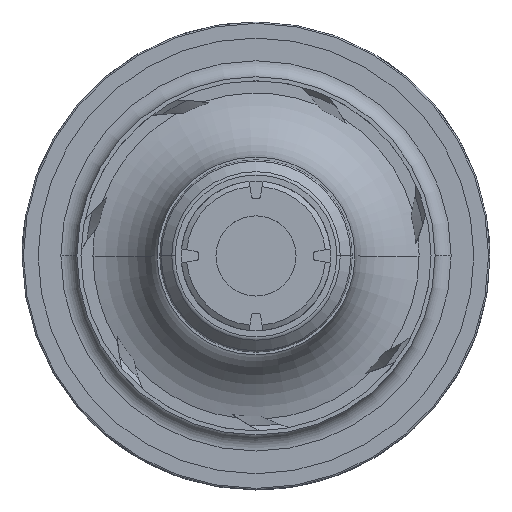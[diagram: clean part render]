
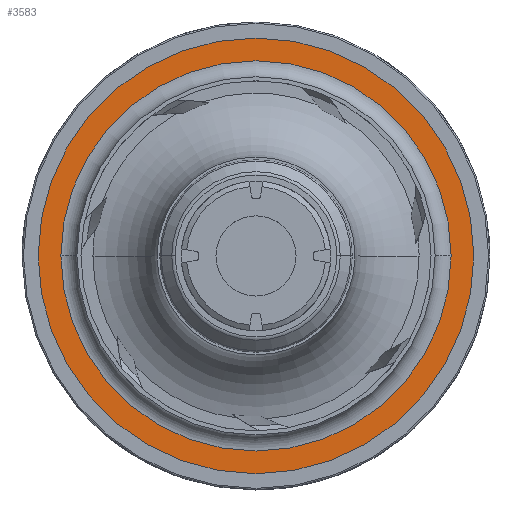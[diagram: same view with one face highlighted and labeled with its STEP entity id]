
A CAD part, top view. The second image highlights one B-rep face of the part: STEP entity #3583.
In plain terms, the highlighted planar face has unit normal (0, 0, 1).
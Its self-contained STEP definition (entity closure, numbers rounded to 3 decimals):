
#62 = VERTEX_POINT ( 'NONE', #4010 ) ;
#697 = DIRECTION ( 'NONE',  ( 0., 0., -1. ) ) ;
#984 = CARTESIAN_POINT ( 'NONE',  ( 81.5, 0., 57. ) ) ;
#1131 = CIRCLE ( 'NONE', #3458, 81.5 ) ;
#1276 = DIRECTION ( 'NONE',  ( 0., 0., -1. ) ) ;
#1661 = CIRCLE ( 'NONE', #5576, 73. ) ;
#1949 = VERTEX_POINT ( 'NONE', #2140 ) ;
#2140 = CARTESIAN_POINT ( 'NONE',  ( 73., 0., 57. ) ) ;
#2166 = CIRCLE ( 'NONE', #5412, 81.5 ) ;
#2455 = FACE_OUTER_BOUND ( 'NONE', #6453, .T. ) ;
#2466 = EDGE_LOOP ( 'NONE', ( #4349, #3033 ) ) ;
#3033 = ORIENTED_EDGE ( 'NONE', *, *, #8497, .T. ) ;
#3458 = AXIS2_PLACEMENT_3D ( 'NONE', #4674, #697, #5343 ) ;
#3489 = EDGE_CURVE ( 'NONE', #62, #8420, #1131, .T. ) ;
#3583 = ADVANCED_FACE ( 'NONE', ( #7583, #2455 ), #6757, .T. ) ;
#3589 = CARTESIAN_POINT ( 'NONE',  ( 0., 0., 57. ) ) ;
#3699 = AXIS2_PLACEMENT_3D ( 'NONE', #3733, #8419, #4418 ) ;
#3733 = CARTESIAN_POINT ( 'NONE',  ( 0., 0., 57. ) ) ;
#4010 = CARTESIAN_POINT ( 'NONE',  ( -81.5, 0., 57. ) ) ;
#4087 = DIRECTION ( 'NONE',  ( 1., 0., 0. ) ) ;
#4246 = DIRECTION ( 'NONE',  ( -1., 0., 0. ) ) ;
#4349 = ORIENTED_EDGE ( 'NONE', *, *, #4697, .T. ) ;
#4418 = DIRECTION ( 'NONE',  ( -1., 0., 0. ) ) ;
#4674 = CARTESIAN_POINT ( 'NONE',  ( 0., 0., 57. ) ) ;
#4697 = EDGE_CURVE ( 'NONE', #5126, #1949, #1661, .T. ) ;
#4934 = EDGE_CURVE ( 'NONE', #8420, #62, #2166, .T. ) ;
#5126 = VERTEX_POINT ( 'NONE', #5153 ) ;
#5153 = CARTESIAN_POINT ( 'NONE',  ( -73., 0., 57. ) ) ;
#5255 = CARTESIAN_POINT ( 'NONE',  ( 0., 0., 57. ) ) ;
#5271 = ORIENTED_EDGE ( 'NONE', *, *, #3489, .F. ) ;
#5343 = DIRECTION ( 'NONE',  ( -1., 0., 0. ) ) ;
#5412 = AXIS2_PLACEMENT_3D ( 'NONE', #3589, #8258, #4246 ) ;
#5576 = AXIS2_PLACEMENT_3D ( 'NONE', #5255, #1276, #5923 ) ;
#5923 = DIRECTION ( 'NONE',  ( -1., 0., 0. ) ) ;
#6073 = CARTESIAN_POINT ( 'NONE',  ( 0., 81.5, 57. ) ) ;
#6453 = EDGE_LOOP ( 'NONE', ( #5271, #7895 ) ) ;
#6598 = AXIS2_PLACEMENT_3D ( 'NONE', #6073, #8101, #4087 ) ;
#6757 = PLANE ( 'NONE',  #6598 ) ;
#7303 = CIRCLE ( 'NONE', #3699, 73. ) ;
#7583 = FACE_BOUND ( 'NONE', #2466, .T. ) ;
#7895 = ORIENTED_EDGE ( 'NONE', *, *, #4934, .F. ) ;
#8101 = DIRECTION ( 'NONE',  ( 0., 0., 1. ) ) ;
#8258 = DIRECTION ( 'NONE',  ( 0., 0., -1. ) ) ;
#8419 = DIRECTION ( 'NONE',  ( 0., 0., -1. ) ) ;
#8420 = VERTEX_POINT ( 'NONE', #984 ) ;
#8497 = EDGE_CURVE ( 'NONE', #1949, #5126, #7303, .T. ) ;
